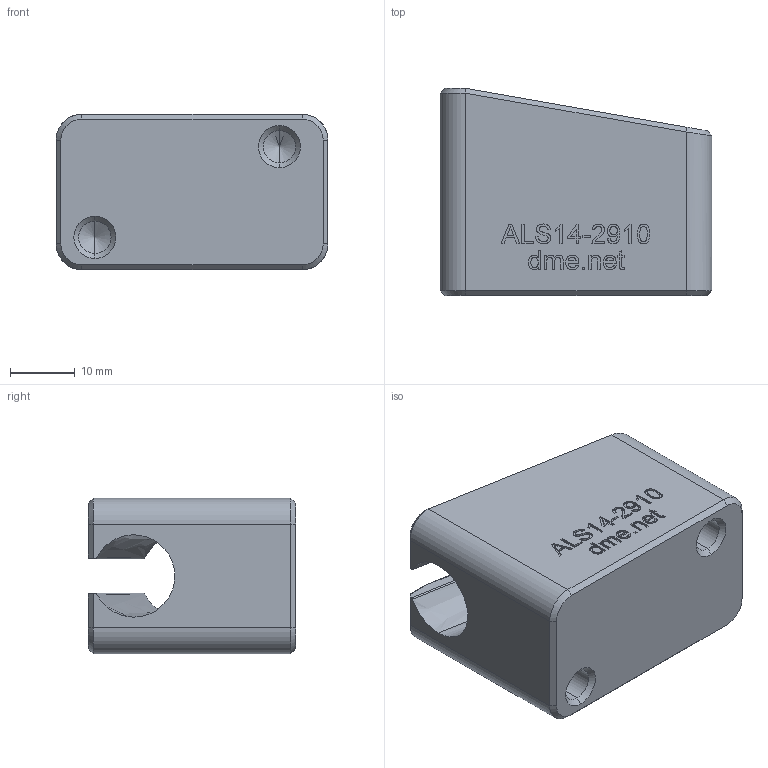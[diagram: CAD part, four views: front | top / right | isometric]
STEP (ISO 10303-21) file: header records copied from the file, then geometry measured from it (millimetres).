
FILE_DESCRIPTION (( 'STEP AP203' ), '1' );
FILE_NAME ('ALS14-2910.STEP', '2021-01-10T21:39:47', ( '' ), ( '' ), 'SwSTEP 2.0', 'SolidWorks 2020', '' );
FILE_SCHEMA (( 'CONFIG_CONTROL_DESIGN' ));
Length unit declared in the file: millimetre
Products named in the file (1): ALS14-2910
Bounding box: 42 x 32 x 24 mm (x, y, z)
Volume: 22668.8 mm3; surface area: 6960 mm2
Topology: 1 solids, 1 shells, 273 faces, 717 edges, 468 vertices
Faces by surface type: plane 143, bspline 102, cone 14, cylinder 14
Entity records: 13954 total; most frequent: CARTESIAN_POINT 7891, ORIENTED_EDGE 1426, DIRECTION 863, EDGE_CURVE 713, VECTOR 471, LINE 471, VERTEX_POINT 468, EDGE_LOOP 299
